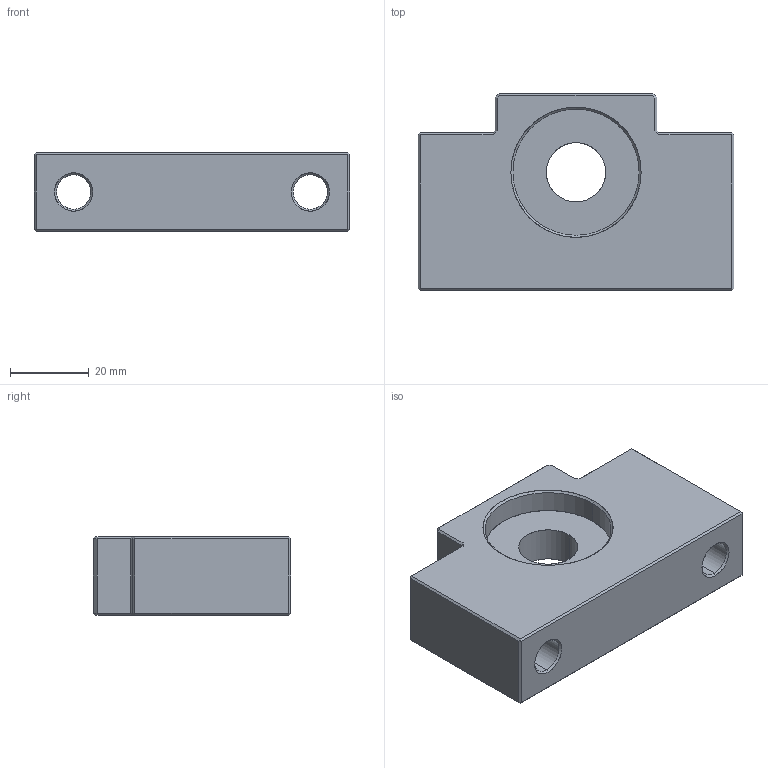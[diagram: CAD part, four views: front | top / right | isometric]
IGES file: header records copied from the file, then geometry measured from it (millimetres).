
Start section: SolidWorks IGES file using analytic representation for surfaces
Global section: file name: E:\同创达图纸\产品示意图\3D选型图\支撑座\AF系列\AF15.IGS; native system: SolidWorks 2012; preprocessor: SolidWorks 2012; author: gao; date: 130702.135005; units: millimetre
Bounding box: 80 x 50 x 20 mm (x, y, z)
Surface area: 15600.9 mm2 (no closed solid volume)
Topology: 0 solids, 0 shells, 80 faces, 888 edges, 888 vertices
Faces by surface type: bspline 54, revolution 26
